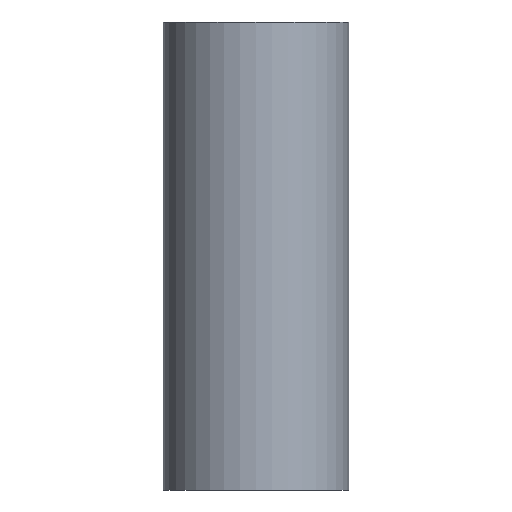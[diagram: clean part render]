
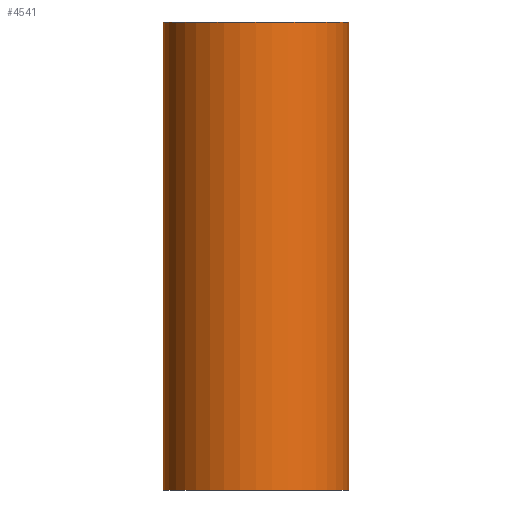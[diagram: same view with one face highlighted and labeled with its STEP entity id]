
A CAD part, front view. The second image highlights one B-rep face of the part: STEP entity #4541.
In plain terms, the highlighted cylindrical face has radius 29.717 mm (diameter 59.434 mm), a full revolution.
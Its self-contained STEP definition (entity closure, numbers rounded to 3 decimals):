
#444=FACE_OUTER_BOUND('',#710,.T.);
#710=EDGE_LOOP('',(#3239,#3240,#3241,#3242));
#1238=CIRCLE('',#4745,29.717);
#1303=CIRCLE('',#4834,29.717);
#1669=LINE('',#6994,#1874);
#1874=VECTOR('',#5574,30.);
#2060=VERTEX_POINT('',#6819);
#2123=VERTEX_POINT('',#6992);
#2470=EDGE_CURVE('',#2060,#2060,#1238,.F.);
#2556=EDGE_CURVE('',#2123,#2123,#1303,.F.);
#2557=EDGE_CURVE('',#2123,#2060,#1669,.T.);
#3239=ORIENTED_EDGE('',*,*,#2556,.F.);
#3240=ORIENTED_EDGE('',*,*,#2557,.T.);
#3241=ORIENTED_EDGE('',*,*,#2470,.T.);
#3242=ORIENTED_EDGE('',*,*,#2557,.F.);
#4334=CYLINDRICAL_SURFACE('',#4833,29.717);
#4541=ADVANCED_FACE('',(#444),#4334,.T.);
#4745=AXIS2_PLACEMENT_3D('',#6820,#5373,#5374);
#4833=AXIS2_PLACEMENT_3D('',#6991,#5570,#5571);
#4834=AXIS2_PLACEMENT_3D('',#6993,#5572,#5573);
#5373=DIRECTION('center_axis',(0.,0.,-1.));
#5374=DIRECTION('ref_axis',(1.,0.,0.));
#5570=DIRECTION('center_axis',(0.,0.,1.));
#5571=DIRECTION('ref_axis',(1.,0.,0.));
#5572=DIRECTION('center_axis',(0.,0.,-1.));
#5573=DIRECTION('ref_axis',(1.,0.,0.));
#5574=DIRECTION('',(0.,0.,-1.));
#6819=CARTESIAN_POINT('',(-29.717,0.,0.));
#6820=CARTESIAN_POINT('Origin',(0.,0.,0.));
#6991=CARTESIAN_POINT('Origin',(0.,0.,0.));
#6992=CARTESIAN_POINT('',(-29.717,0.,150.));
#6993=CARTESIAN_POINT('Origin',(0.,0.,150.));
#6994=CARTESIAN_POINT('',(-29.717,0.,0.));
